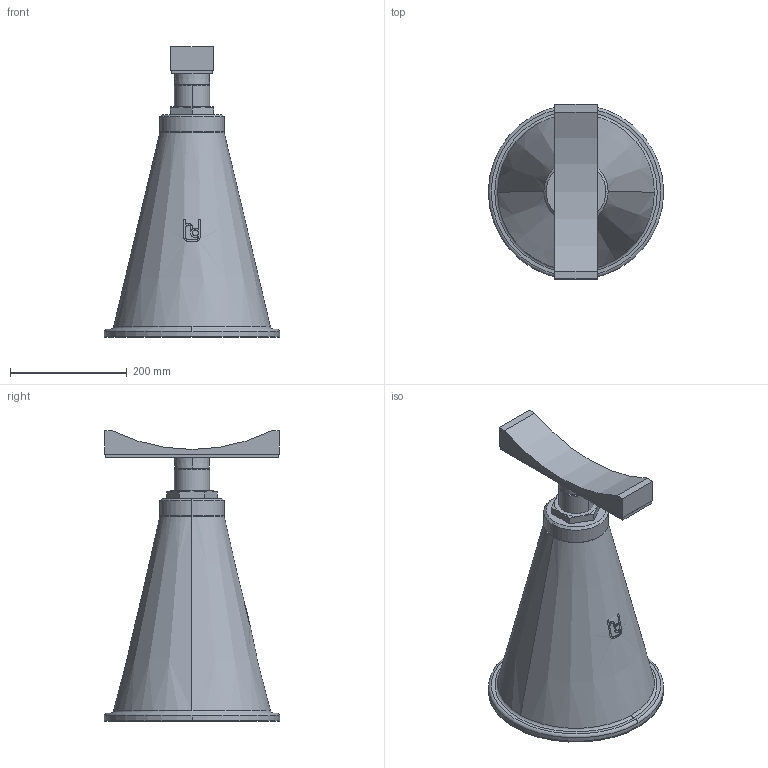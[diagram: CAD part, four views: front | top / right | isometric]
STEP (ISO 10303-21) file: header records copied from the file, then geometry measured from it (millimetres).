
FILE_DESCRIPTION(('STEP AP214'),'1');
FILE_NAME('RSRFB_DN600.stp','2018-06-26T09:08:00',(' '),(' '),'Spatial InterOp 3D',' ',' ');
FILE_SCHEMA(('automotive_design'));
Length unit declared in the file: millimetre
Products named in the file (6): 4; 1; 6; 5; 3; 2
Bounding box: 300 x 300 x 497.12 mm (x, y, z)
Volume: 12753119.9 mm3; surface area: 652131.3 mm2
Topology: 6 solids, 7 shells, 116 faces, 274 edges, 176 vertices
Faces by surface type: plane 51, cylinder 34, cone 23, torus 8
Entity records: 4664 total; most frequent: CARTESIAN_POINT 923, DIRECTION 579, ORIENTED_EDGE 548, EDGE_CURVE 274, AXIS2_PLACEMENT_3D 224, VERTEX_POINT 176, LINE 131, VECTOR 131
